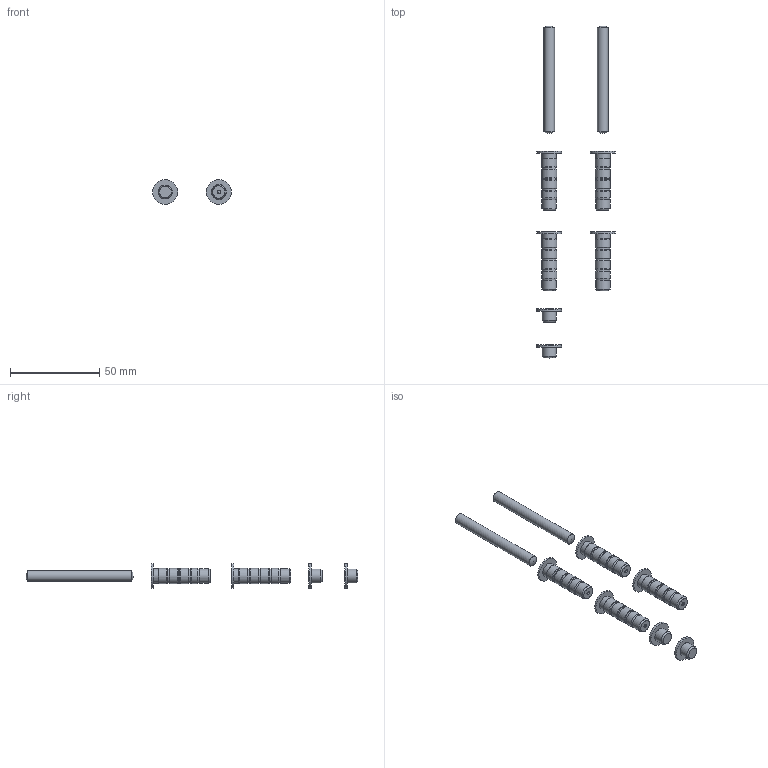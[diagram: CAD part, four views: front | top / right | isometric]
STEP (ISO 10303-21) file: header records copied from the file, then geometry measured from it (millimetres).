
FILE_DESCRIPTION( ( 'STEP AP203' ), '1' );
FILE_NAME( 'C:/Temp/Ganter_Step_05_03_2020/data/3_3/gn2290/Bolt set GN 2290-3-GR.stp', '2020-03-12T12:08:06', ( 'License CC BY-ND 4.0' ), ( 'CADENAS' ), ' ', 'PARTsolutions', ' ' );
FILE_SCHEMA( ( 'CONFIG_CONTROL_DESIGN' ) );
Length unit declared in the file: millimetre
Products named in the file (6): Bolt set GN 2290-3-GR; _Bolt set GN 2290-3-GR-1; _Bolt set GN 2290-3-GR-2; _Bolt set GN 2290-3-GR-3; _Bolt set GN 2290-3-GR-5; _Bolt set GN 2290-3-GR-4
Assembly tree (8 placements, depth 2):
  Bolt set GN 2290-3-GR
    _Bolt set GN 2290-3-GR-1
    _Bolt set GN 2290-3-GR-2  x3
    _Bolt set GN 2290-3-GR-3  x2
    _Bolt set GN 2290-3-GR-5
    _Bolt set GN 2290-3-GR-4
Bounding box: 43.9 x 185.5 x 13.9 mm (x, y, z)
Volume: 8044 mm3; surface area: 10548.5 mm2
Topology: 8 solids, 8 shells, 120 faces, 222 edges, 124 vertices
Faces by surface type: cylinder 54, cone 38, plane 22, sphere 4, torus 2
Full cylindrical faces by diameter (mm): 2 x4, 6 x2, 6.15 x4, 7.8 x2, 8 x20, 8.5 x16, 13.9 x6
Entity records: 1477 total; most frequent: DIRECTION 264, CARTESIAN_POINT 196, AXIS2_PLACEMENT_3D 132, EDGE_LOOP 120, ORIENTED_EDGE 120, FACE_OUTER_BOUND 92, VERTEX_POINT 64, ADVANCED_FACE 63
